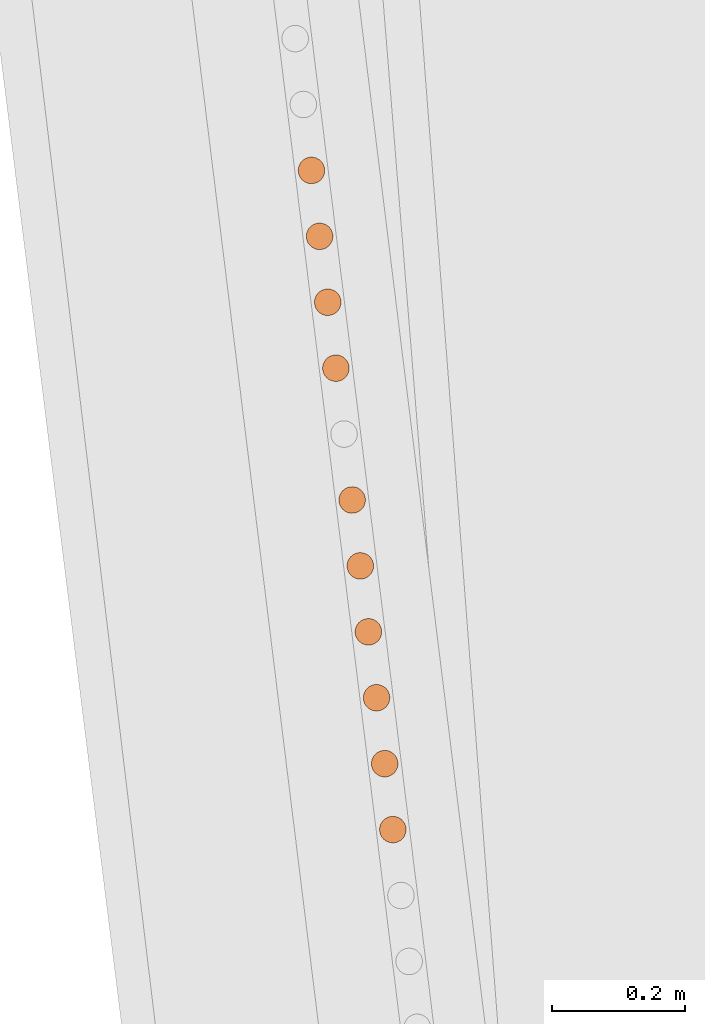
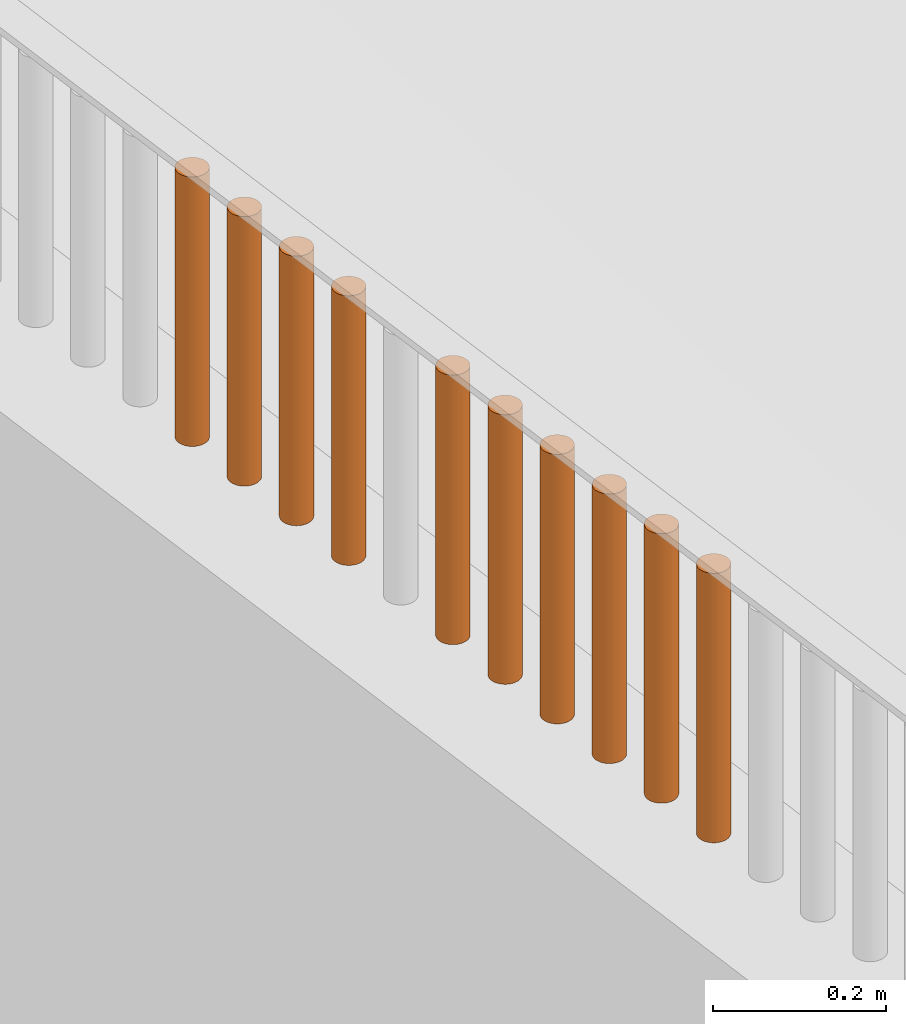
# One storey, part 65 of 1809: 10 proxies, 1 element without a shape of its own.
"""IFC2X3 building model written with IfcOpenShell, lengths in millimetres."""

from ifc_helpers import new_model, entity, si_unit, converted_unit, derived_unit, money_unit, direction, frame, origin_with_axes, place, context, subcontext, project, spatial, faceted_brep, source, transform, mapped, material, type_object, element, aggregate, save


model = new_model("IFC2X3")

# Units and contexts
model_context = context("Model", 3, precision=0.01, world=origin_with_axes(), true_north=direction((0.0, 1.0)))
body_context = subcontext(model_context, "Body", "Model", "MODEL_VIEW")
ifc_project = project(units=[si_unit("LENGTHUNIT", "METRE", prefix="MILLI"), si_unit("AREAUNIT", "SQUARE_METRE"), si_unit("VOLUMEUNIT", "CUBIC_METRE"), converted_unit("PLANEANGLEUNIT", "DEGREE", entity("IfcPlaneAngleMeasure", 0.0174532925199), si_unit("PLANEANGLEUNIT", "RADIAN"), dimensions=[0, 0, 0, 0, 0, 0, 0]), si_unit("SOLIDANGLEUNIT", "STERADIAN"), money_unit("EUR"), converted_unit("TIMEUNIT", "Year", entity("IfcTimeMeasure", 31556926.0), si_unit("TIMEUNIT", "SECOND"), dimensions=[0, 0, 1, 0, 0, 0, 0]), si_unit("MASSUNIT", "GRAM", prefix="KILO"), si_unit("THERMODYNAMICTEMPERATUREUNIT", "DEGREE_CELSIUS"), si_unit("LUMINOUSINTENSITYUNIT", "LUMEN"), si_unit("ENERGYUNIT", "JOULE", prefix="MEGA"), derived_unit("THERMALCONDUCTANCEUNIT", [(si_unit("POWERUNIT", "WATT"), 1), (si_unit("LENGTHUNIT", "METRE"), -1), (si_unit("THERMODYNAMICTEMPERATUREUNIT", "KELVIN"), -1)]), derived_unit("SPECIFICHEATCAPACITYUNIT", [(si_unit("ENERGYUNIT", "JOULE"), 1), (si_unit("MASSUNIT", "GRAM", prefix="KILO"), -1), (si_unit("THERMODYNAMICTEMPERATUREUNIT", "KELVIN"), -1)]), derived_unit("MASSDENSITYUNIT", [(si_unit("MASSUNIT", "GRAM", prefix="KILO"), 1), (si_unit("VOLUMEUNIT", "CUBIC_METRE"), -1)])], contexts=[model_context])

# Site, building, storey
site_placement = place(None, origin_with_axes())
site = spatial("IfcSite", under=ifc_project, at=site_placement, Name="Politse- ja Piirivalveameti ning Päästeameti ühishoone", CompositionType="ELEMENT")
building_placement = place(site_placement, origin_with_axes())
building = spatial("IfcBuilding", under=site, at=building_placement, Name="Politse- ja Piirivalveameti ning Päästeameti ühishoone", CompositionType="ELEMENT")
storey_placement = place(building_placement, origin_with_axes())
storey = spatial("IfcBuildingStorey", under=building, at=storey_placement, Name="Esimene korrus", CompositionType="ELEMENT", Elevation=0.0)

# Proxies
building_element_proxy_type_1 = type_object("IfcBuildingElementProxyType", Name="Railing Type", PredefinedType="NOTDEFINED")
proxy_1_placement = place(storey_placement, frame((-18956.5522504, -53688.4757966, 2100.0), z_axis=(0.0, 0.0, 1.0), x_axis=(1.0, 0.0, 0.0)))
proxy_1 = element("IfcBuildingElementProxy", 1, at=proxy_1_placement, inside=storey, type_object=building_element_proxy_type_1, Name="PIIRDEAED")
ifc_material = material(Name="ET-06_Teras - Konstruktsioon")
building_element_proxy_type_2 = type_object("IfcBuildingElementProxyType", Name="IfcBuildingElementProxy", PredefinedType="NOTDEFINED")
shared_shape_1 = source(origin_with_axes(), body_context, "Body", "Brep", [
    faceted_brep([(0.0, -20.0, 0.0), (3.47296355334, -19.6961550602, 0.0), (3.47296355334, -19.6961550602, 380.000012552), (0.0, -20.0, 380.000012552), (-3.47296355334, -19.6961550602, 0.0), (-6.84040286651, -18.7938524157, 0.0), (-10.0, -17.3205080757, 0.0), (-12.8557521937, -15.3208888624, 0.0), (-15.3208888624, -12.8557521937, 0.0), (-17.3205080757, -10.0, 0.0), (-18.7938524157, -6.84040286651, 0.0), (-19.6961550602, -3.47296355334, 0.0), (-20.0, 0.0, 0.0), (-19.6961550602, 3.47296355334, 0.0), (-18.7938524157, 6.84040286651, 0.0), (-17.3205080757, 10.0, 0.0), (-15.3208888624, 12.8557521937, 0.0), (-12.8557521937, 15.3208888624, 0.0), (-10.0, 17.3205080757, 0.0), (-6.84040286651, 18.7938524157, 0.0), (-3.47296355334, 19.6961550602, 0.0), (0.0, 20.0, 0.0), (3.47296355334, 19.6961550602, 0.0), (6.84040286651, 18.7938524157, 0.0), (10.0, 17.3205080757, 0.0), (12.8557521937, 15.3208888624, 0.0), (15.3208888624, 12.8557521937, 0.0), (17.3205080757, 10.0, 0.0), (18.7938524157, 6.84040286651, 0.0), (19.6961550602, 3.47296355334, 0.0), (20.0, 0.0, 0.0), (19.6961550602, -3.47296355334, 0.0), (18.7938524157, -6.84040286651, 0.0), (17.3205080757, -10.0, 0.0), (15.3208888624, -12.8557521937, 0.0), (12.8557521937, -15.3208888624, 0.0), (10.0, -17.3205080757, 0.0), (6.84040286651, -18.7938524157, 0.0), (6.84040286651, -18.7938524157, 380.000012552), (10.0, -17.3205080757, 380.000012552), (12.8557521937, -15.3208888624, 380.000012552), (15.3208888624, -12.8557521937, 380.000012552), (17.3205080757, -10.0, 380.000012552), (18.7938524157, -6.84040286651, 380.000012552), (19.6961550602, -3.47296355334, 380.000012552), (20.0, 0.0, 380.000012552), (19.6961550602, 3.47296355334, 380.000012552), (18.7938524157, 6.84040286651, 380.000012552), (17.3205080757, 10.0, 380.000012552), (15.3208888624, 12.8557521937, 380.000012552), (12.8557521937, 15.3208888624, 380.000012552), (10.0, 17.3205080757, 380.000012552), (6.84040286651, 18.7938524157, 380.000012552), (3.47296355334, 19.6961550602, 380.000012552), (0.0, 20.0, 380.000012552), (-3.47296355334, 19.6961550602, 380.000012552), (-6.84040286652, 18.7938524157, 380.000012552), (-10.0, 17.3205080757, 380.000012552), (-12.8557521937, 15.3208888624, 380.000012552), (-15.3208888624, 12.8557521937, 380.000012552), (-17.3205080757, 10.0, 380.000012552), (-18.7938524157, 6.84040286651, 380.000012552), (-19.6961550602, 3.47296355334, 380.000012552), (-20.0, 0.0, 380.000012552), (-19.6961550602, -3.47296355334, 380.000012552), (-18.7938524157, -6.84040286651, 380.000012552), (-17.3205080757, -10.0, 380.000012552), (-15.3208888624, -12.8557521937, 380.000012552), (-12.8557521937, -15.3208888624, 380.000012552), (-10.0, -17.3205080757, 380.000012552), (-6.84040286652, -18.7938524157, 380.000012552), (-3.47296355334, -19.6961550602, 380.000012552)], [[[0, 1, 2, 3]], [[0, 4, 5, 6, 7, 8, 9, 10, 11, 12, 13, 14, 15, 16, 17, 18, 19, 20, 21, 22, 23, 24, 25, 26, 27, 28, 29, 30, 31, 32, 33, 34, 35, 36, 37, 1]], [[1, 37, 38, 2]], [[3, 2, 38, 39, 40, 41, 42, 43, 44, 45, 46, 47, 48, 49, 50, 51, 52, 53, 54, 55, 56, 57, 58, 59, 60, 61, 62, 63, 64, 65, 66, 67, 68, 69, 70, 71]], [[4, 0, 3, 71]], [[5, 4, 71, 70]], [[6, 5, 70, 69]], [[7, 6, 69, 68]], [[8, 7, 68, 67]], [[9, 8, 67, 66]], [[10, 9, 66, 65]], [[11, 10, 65, 64]], [[12, 11, 64, 63]], [[13, 12, 63, 62]], [[14, 13, 62, 61]], [[15, 14, 61, 60]], [[16, 15, 60, 59]], [[17, 16, 59, 58]], [[18, 17, 58, 57]], [[19, 18, 57, 56]], [[20, 19, 56, 55]], [[21, 20, 55, 54]], [[22, 21, 54, 53]], [[23, 22, 53, 52]], [[24, 23, 52, 51]], [[25, 24, 51, 50]], [[26, 25, 50, 49]], [[27, 26, 49, 48]], [[28, 27, 48, 47]], [[29, 28, 47, 46]], [[30, 29, 46, 45]], [[31, 30, 45, 44]], [[32, 31, 44, 43]], [[33, 32, 43, 42]], [[34, 33, 42, 41]], [[35, 34, 41, 40]], [[36, 35, 40, 39]], [[37, 36, 39, 38]]]),
])
proxy_2_placement = place(proxy_1_placement, frame((-1550.49972739, 11727.3812848, -1.25517001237e-05), z_axis=(0.0, 0.0, 1.0), x_axis=(1.0, 0.0, 0.0)))
proxy_2 = element("IfcBuildingElementProxy", 2, at=proxy_2_placement, type_object=building_element_proxy_type_2, material=ifc_material, Name="BALUSTER - 001", context=body_context, shape_type="MappedRepresentation", body=[
    mapped(shared_shape_1, transform((0.0, 0.0, 0.0), x_axis=(0.992468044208, 0.122503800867, 0.0), y_axis=(-0.122503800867, 0.992468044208, 0.0), z_axis=(0.0, 0.0, 1.0))),
])
proxy_3_placement = place(proxy_1_placement, frame((-1648.4813667, 12521.1823362, -1.25517001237e-05), z_axis=(0.0, 0.0, 1.0), x_axis=(1.0, 0.0, 0.0)))
proxy_3 = element("IfcBuildingElementProxy", 3, at=proxy_3_placement, type_object=building_element_proxy_type_2, material=ifc_material, Name="BALUSTER - 001", context=body_context, shape_type="MappedRepresentation", body=[
    mapped(shared_shape_1, transform((0.0, 0.0, 0.0), x_axis=(0.992468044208, 0.122503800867, 0.0), y_axis=(-0.122503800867, 0.992468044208, 0.0), z_axis=(0.0, 0.0, 1.0))),
])
shared_shape_2 = source(origin_with_axes(), body_context, "Body", "Brep", [
    faceted_brep([(0.0, -20.0, 0.0), (3.47296355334, -19.6961550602, 0.0), (3.47296355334, -19.6961550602, 380.000012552), (0.0, -20.0, 380.000012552), (-3.47296355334, -19.6961550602, 0.0), (-6.84040286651, -18.7938524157, 0.0), (-10.0, -17.3205080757, 0.0), (-12.8557521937, -15.3208888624, 0.0), (-15.3208888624, -12.8557521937, 0.0), (-17.3205080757, -10.0, 0.0), (-18.7938524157, -6.84040286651, 0.0), (-19.6961550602, -3.47296355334, 0.0), (-20.0, 0.0, 0.0), (-19.6961550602, 3.47296355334, 0.0), (-18.7938524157, 6.84040286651, 0.0), (-17.3205080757, 10.0, 0.0), (-15.3208888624, 12.8557521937, 0.0), (-12.8557521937, 15.3208888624, 0.0), (-10.0, 17.3205080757, 0.0), (-6.84040286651, 18.7938524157, 0.0), (-3.47296355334, 19.6961550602, 0.0), (0.0, 20.0, 0.0), (3.47296355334, 19.6961550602, 0.0), (6.84040286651, 18.7938524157, 0.0), (10.0, 17.3205080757, 0.0), (12.8557521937, 15.3208888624, 0.0), (15.3208888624, 12.8557521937, 0.0), (17.3205080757, 10.0, 0.0), (18.7938524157, 6.84040286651, 0.0), (19.6961550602, 3.47296355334, 0.0), (20.0, 0.0, 0.0), (19.6961550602, -3.47296355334, 0.0), (18.7938524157, -6.84040286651, 0.0), (17.3205080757, -10.0, 0.0), (15.3208888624, -12.8557521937, 0.0), (12.8557521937, -15.3208888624, 0.0), (10.0, -17.3205080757, 0.0), (6.84040286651, -18.7938524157, 0.0), (6.84040286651, -18.7938524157, 380.000012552), (10.0, -17.3205080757, 380.000012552), (12.8557521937, -15.3208888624, 380.000012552), (15.3208888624, -12.8557521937, 380.000012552), (17.3205080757, -9.99999999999, 380.000012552), (18.7938524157, -6.84040286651, 380.000012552), (19.6961550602, -3.47296355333, 380.000012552), (20.0, 0.0, 380.000012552), (19.6961550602, 3.47296355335, 380.000012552), (18.7938524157, 6.84040286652, 380.000012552), (17.3205080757, 10.0, 380.000012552), (15.3208888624, 12.8557521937, 380.000012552), (12.8557521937, 15.3208888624, 380.000012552), (10.0, 17.3205080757, 380.000012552), (6.84040286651, 18.7938524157, 380.000012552), (3.47296355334, 19.6961550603, 380.000012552), (0.0, 20.0, 380.000012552), (-3.47296355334, 19.6961550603, 380.000012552), (-6.84040286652, 18.7938524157, 380.000012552), (-10.0, 17.3205080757, 380.000012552), (-12.8557521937, 15.3208888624, 380.000012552), (-15.3208888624, 12.8557521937, 380.000012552), (-17.3205080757, 10.0, 380.000012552), (-18.7938524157, 6.84040286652, 380.000012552), (-19.6961550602, 3.47296355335, 380.000012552), (-20.0, 0.0, 380.000012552), (-19.6961550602, -3.47296355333, 380.000012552), (-18.7938524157, -6.84040286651, 380.000012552), (-17.3205080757, -9.99999999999, 380.000012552), (-15.3208888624, -12.8557521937, 380.000012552), (-12.8557521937, -15.3208888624, 380.000012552), (-10.0, -17.3205080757, 380.000012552), (-6.84040286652, -18.7938524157, 380.000012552), (-3.47296355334, -19.6961550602, 380.000012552)], [[[0, 1, 2, 3]], [[0, 4, 5, 6, 7, 8, 9, 10, 11, 12, 13, 14, 15, 16, 17, 18, 19, 20, 21, 22, 23, 24, 25, 26, 27, 28, 29, 30, 31, 32, 33, 34, 35, 36, 37, 1]], [[1, 37, 38, 2]], [[3, 2, 38, 39, 40, 41, 42, 43, 44, 45, 46, 47, 48, 49, 50, 51, 52, 53, 54, 55, 56, 57, 58, 59, 60, 61, 62, 63, 64, 65, 66, 67, 68, 69, 70, 71]], [[4, 0, 3, 71]], [[5, 4, 71, 70]], [[6, 5, 70, 69]], [[7, 6, 69, 68]], [[8, 7, 68, 67]], [[9, 8, 67, 66]], [[10, 9, 66, 65]], [[11, 10, 65, 64]], [[12, 11, 64, 63]], [[13, 12, 63, 62]], [[14, 13, 62, 61]], [[15, 14, 61, 60]], [[16, 15, 60, 59]], [[17, 16, 59, 58]], [[18, 17, 58, 57]], [[19, 18, 57, 56]], [[20, 19, 56, 55]], [[21, 20, 55, 54]], [[22, 21, 54, 53]], [[23, 22, 53, 52]], [[24, 23, 52, 51]], [[25, 24, 51, 50]], [[26, 25, 50, 49]], [[27, 26, 49, 48]], [[28, 27, 48, 47]], [[29, 28, 47, 46]], [[30, 29, 46, 45]], [[31, 30, 45, 44]], [[32, 31, 44, 43]], [[33, 32, 43, 42]], [[34, 33, 42, 41]], [[35, 34, 41, 40]], [[36, 35, 40, 39]], [[37, 36, 39, 38]]]),
])
proxy_4_placement = place(proxy_1_placement, frame((-1574.99513722, 11925.8315476, -1.25517001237e-05), z_axis=(0.0, 0.0, 1.0), x_axis=(1.0, 0.0, 0.0)))
proxy_4 = element("IfcBuildingElementProxy", 4, at=proxy_4_placement, type_object=building_element_proxy_type_2, material=ifc_material, Name="BALUSTER - 001", context=body_context, shape_type="MappedRepresentation", body=[
    mapped(shared_shape_2, transform((0.0, 0.0, 0.0), x_axis=(0.992468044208, 0.122503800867, 0.0), y_axis=(-0.122503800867, 0.992468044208, 0.0), z_axis=(0.0, 0.0, 1.0))),
])
shared_shape_3 = source(origin_with_axes(), body_context, "Body", "Brep", [
    faceted_brep([(0.0, -20.0, 0.0), (3.47296355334, -19.6961550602, 0.0), (3.47296355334, -19.6961550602, 380.000012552), (0.0, -20.0, 380.000012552), (-3.47296355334, -19.6961550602, 0.0), (-6.84040286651, -18.7938524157, 0.0), (-10.0, -17.3205080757, 0.0), (-12.8557521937, -15.3208888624, 0.0), (-15.3208888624, -12.8557521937, 0.0), (-17.3205080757, -10.0, 0.0), (-18.7938524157, -6.84040286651, 0.0), (-19.6961550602, -3.47296355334, 0.0), (-20.0, 0.0, 0.0), (-19.6961550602, 3.47296355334, 0.0), (-18.7938524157, 6.84040286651, 0.0), (-17.3205080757, 10.0, 0.0), (-15.3208888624, 12.8557521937, 0.0), (-12.8557521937, 15.3208888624, 0.0), (-10.0, 17.3205080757, 0.0), (-6.84040286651, 18.7938524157, 0.0), (-3.47296355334, 19.6961550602, 0.0), (0.0, 20.0, 0.0), (3.47296355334, 19.6961550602, 0.0), (6.84040286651, 18.7938524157, 0.0), (10.0, 17.3205080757, 0.0), (12.8557521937, 15.3208888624, 0.0), (15.3208888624, 12.8557521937, 0.0), (17.3205080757, 10.0, 0.0), (18.7938524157, 6.84040286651, 0.0), (19.6961550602, 3.47296355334, 0.0), (20.0, 0.0, 0.0), (19.6961550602, -3.47296355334, 0.0), (18.7938524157, -6.84040286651, 0.0), (17.3205080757, -10.0, 0.0), (15.3208888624, -12.8557521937, 0.0), (12.8557521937, -15.3208888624, 0.0), (10.0, -17.3205080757, 0.0), (6.84040286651, -18.7938524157, 0.0), (6.84040286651, -18.7938524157, 380.000012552), (10.0, -17.3205080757, 380.000012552), (12.8557521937, -15.3208888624, 380.000012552), (15.3208888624, -12.8557521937, 380.000012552), (17.3205080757, -10.0, 380.000012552), (18.7938524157, -6.84040286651, 380.000012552), (19.6961550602, -3.47296355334, 380.000012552), (20.0, 0.0, 380.000012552), (19.6961550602, 3.47296355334, 380.000012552), (18.7938524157, 6.84040286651, 380.000012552), (17.3205080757, 10.0, 380.000012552), (15.3208888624, 12.8557521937, 380.000012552), (12.8557521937, 15.3208888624, 380.000012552), (10.0, 17.3205080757, 380.000012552), (6.84040286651, 18.7938524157, 380.000012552), (3.47296355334, 19.6961550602, 380.000012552), (0.0, 20.0, 380.000012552), (-3.47296355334, 19.6961550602, 380.000012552), (-6.84040286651, 18.7938524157, 380.000012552), (-10.0, 17.3205080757, 380.000012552), (-12.8557521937, 15.3208888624, 380.000012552), (-15.3208888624, 12.8557521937, 380.000012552), (-17.3205080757, 10.0, 380.000012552), (-18.7938524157, 6.84040286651, 380.000012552), (-19.6961550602, 3.47296355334, 380.000012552), (-20.0, 0.0, 380.000012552), (-19.6961550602, -3.47296355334, 380.000012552), (-18.7938524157, -6.84040286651, 380.000012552), (-17.3205080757, -10.0, 380.000012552), (-15.3208888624, -12.8557521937, 380.000012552), (-12.8557521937, -15.3208888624, 380.000012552), (-10.0, -17.3205080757, 380.000012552), (-6.84040286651, -18.7938524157, 380.000012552), (-3.47296355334, -19.6961550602, 380.000012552)], [[[0, 1, 2, 3]], [[0, 4, 5, 6, 7, 8, 9, 10, 11, 12, 13, 14, 15, 16, 17, 18, 19, 20, 21, 22, 23, 24, 25, 26, 27, 28, 29, 30, 31, 32, 33, 34, 35, 36, 37, 1]], [[1, 37, 38, 2]], [[3, 2, 38, 39, 40, 41, 42, 43, 44, 45, 46, 47, 48, 49, 50, 51, 52, 53, 54, 55, 56, 57, 58, 59, 60, 61, 62, 63, 64, 65, 66, 67, 68, 69, 70, 71]], [[4, 0, 3, 71]], [[5, 4, 71, 70]], [[6, 5, 70, 69]], [[7, 6, 69, 68]], [[8, 7, 68, 67]], [[9, 8, 67, 66]], [[10, 9, 66, 65]], [[11, 10, 65, 64]], [[12, 11, 64, 63]], [[13, 12, 63, 62]], [[14, 13, 62, 61]], [[15, 14, 61, 60]], [[16, 15, 60, 59]], [[17, 16, 59, 58]], [[18, 17, 58, 57]], [[19, 18, 57, 56]], [[20, 19, 56, 55]], [[21, 20, 55, 54]], [[22, 21, 54, 53]], [[23, 22, 53, 52]], [[24, 23, 52, 51]], [[25, 24, 51, 50]], [[26, 25, 50, 49]], [[27, 26, 49, 48]], [[28, 27, 48, 47]], [[29, 28, 47, 46]], [[30, 29, 46, 45]], [[31, 30, 45, 44]], [[32, 31, 44, 43]], [[33, 32, 43, 42]], [[34, 33, 42, 41]], [[35, 34, 41, 40]], [[36, 35, 40, 39]], [[37, 36, 39, 38]]]),
])
proxy_5_placement = place(proxy_1_placement, frame((-1587.24284213, 12025.056679, -1.25517001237e-05), z_axis=(0.0, 0.0, 1.0), x_axis=(1.0, 0.0, 0.0)))
proxy_5 = element("IfcBuildingElementProxy", 5, at=proxy_5_placement, type_object=building_element_proxy_type_2, material=ifc_material, Name="BALUSTER - 001", context=body_context, shape_type="MappedRepresentation", body=[
    mapped(shared_shape_3, transform((0.0, 0.0, 0.0), x_axis=(0.992468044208, 0.122503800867, 0.0), y_axis=(-0.122503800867, 0.992468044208, 0.0), z_axis=(0.0, 0.0, 1.0))),
])
shared_shape_4 = source(origin_with_axes(), body_context, "Body", "Brep", [
    faceted_brep([(0.0, -20.0, 0.0), (3.47296355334, -19.6961550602, 0.0), (3.47296355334, -19.6961550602, 380.000012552), (0.0, -20.0, 380.000012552), (-3.47296355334, -19.6961550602, 0.0), (-6.84040286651, -18.7938524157, 0.0), (-10.0, -17.3205080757, 0.0), (-12.8557521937, -15.3208888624, 0.0), (-15.3208888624, -12.8557521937, 0.0), (-17.3205080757, -10.0, 0.0), (-18.7938524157, -6.84040286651, 0.0), (-19.6961550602, -3.47296355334, 0.0), (-20.0, 0.0, 0.0), (-19.6961550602, 3.47296355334, 0.0), (-18.7938524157, 6.84040286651, 0.0), (-17.3205080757, 10.0, 0.0), (-15.3208888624, 12.8557521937, 0.0), (-12.8557521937, 15.3208888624, 0.0), (-10.0, 17.3205080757, 0.0), (-6.84040286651, 18.7938524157, 0.0), (-3.47296355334, 19.6961550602, 0.0), (0.0, 20.0, 0.0), (3.47296355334, 19.6961550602, 0.0), (6.84040286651, 18.7938524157, 0.0), (10.0, 17.3205080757, 0.0), (12.8557521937, 15.3208888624, 0.0), (15.3208888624, 12.8557521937, 0.0), (17.3205080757, 10.0, 0.0), (18.7938524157, 6.84040286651, 0.0), (19.6961550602, 3.47296355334, 0.0), (20.0, 0.0, 0.0), (19.6961550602, -3.47296355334, 0.0), (18.7938524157, -6.84040286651, 0.0), (17.3205080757, -10.0, 0.0), (15.3208888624, -12.8557521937, 0.0), (12.8557521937, -15.3208888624, 0.0), (10.0, -17.3205080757, 0.0), (6.84040286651, -18.7938524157, 0.0), (6.84040286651, -18.7938524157, 380.000012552), (10.0, -17.3205080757, 380.000012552), (12.8557521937, -15.3208888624, 380.000012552), (15.3208888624, -12.8557521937, 380.000012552), (17.3205080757, -10.0, 380.000012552), (18.7938524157, -6.84040286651, 380.000012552), (19.6961550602, -3.47296355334, 380.000012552), (20.0, 0.0, 380.000012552), (19.6961550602, 3.47296355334, 380.000012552), (18.7938524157, 6.84040286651, 380.000012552), (17.3205080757, 10.0, 380.000012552), (15.3208888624, 12.8557521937, 380.000012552), (12.8557521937, 15.3208888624, 380.000012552), (10.0, 17.3205080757, 380.000012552), (6.84040286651, 18.7938524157, 380.000012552), (3.47296355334, 19.6961550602, 380.000012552), (0.0, 20.0, 380.000012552), (-3.47296355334, 19.6961550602, 380.000012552), (-6.84040286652, 18.7938524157, 380.000012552), (-10.0, 17.3205080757, 380.000012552), (-12.8557521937, 15.3208888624, 380.000012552), (-15.3208888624, 12.8557521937, 380.000012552), (-17.3205080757, 10.0, 380.000012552), (-18.7938524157, 6.84040286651, 380.000012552), (-19.6961550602, 3.47296355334, 380.000012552), (-20.0, 0.0, 380.000012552), (-19.6961550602, -3.47296355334, 380.000012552), (-18.7938524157, -6.84040286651, 380.000012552), (-17.3205080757, -10.0, 380.000012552), (-15.3208888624, -12.8557521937, 380.000012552), (-12.8557521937, -15.3208888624, 380.000012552), (-10.0, -17.3205080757, 380.000012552), (-6.84040286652, -18.7938524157, 380.000012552), (-3.47296355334, -19.6961550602, 380.000012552)], [[[0, 1, 2, 3]], [[0, 4, 5, 6, 7, 8, 9, 10, 11, 12, 13, 14, 15, 16, 17, 18, 19, 20, 21, 22, 23, 24, 25, 26, 27, 28, 29, 30, 31, 32, 33, 34, 35, 36, 37, 1]], [[1, 37, 38, 2]], [[3, 2, 38, 39, 40, 41, 42, 43, 44, 45, 46, 47, 48, 49, 50, 51, 52, 53, 54, 55, 56, 57, 58, 59, 60, 61, 62, 63, 64, 65, 66, 67, 68, 69, 70, 71]], [[4, 0, 3, 71]], [[5, 4, 71, 70]], [[6, 5, 70, 69]], [[7, 6, 69, 68]], [[8, 7, 68, 67]], [[9, 8, 67, 66]], [[10, 9, 66, 65]], [[11, 10, 65, 64]], [[12, 11, 64, 63]], [[13, 12, 63, 62]], [[14, 13, 62, 61]], [[15, 14, 61, 60]], [[16, 15, 60, 59]], [[17, 16, 59, 58]], [[18, 17, 58, 57]], [[19, 18, 57, 56]], [[20, 19, 56, 55]], [[21, 20, 55, 54]], [[22, 21, 54, 53]], [[23, 22, 53, 52]], [[24, 23, 52, 51]], [[25, 24, 51, 50]], [[26, 25, 50, 49]], [[27, 26, 49, 48]], [[28, 27, 48, 47]], [[29, 28, 47, 46]], [[30, 29, 46, 45]], [[31, 30, 45, 44]], [[32, 31, 44, 43]], [[33, 32, 43, 42]], [[34, 33, 42, 41]], [[35, 34, 41, 40]], [[36, 35, 40, 39]], [[37, 36, 39, 38]]]),
])
proxy_6_placement = place(proxy_1_placement, frame((-1562.74743231, 11826.6064162, -1.25517001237e-05), z_axis=(0.0, 0.0, 1.0), x_axis=(1.0, 0.0, 0.0)))
proxy_6 = element("IfcBuildingElementProxy", 6, at=proxy_6_placement, type_object=building_element_proxy_type_2, material=ifc_material, Name="BALUSTER - 001", context=body_context, shape_type="MappedRepresentation", body=[
    mapped(shared_shape_4, transform((0.0, 0.0, 0.0), x_axis=(0.992468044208, 0.122503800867, 0.0), y_axis=(-0.122503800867, 0.992468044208, 0.0), z_axis=(0.0, 0.0, 1.0))),
])
proxy_7_placement = place(proxy_1_placement, frame((-1599.49054705, 12124.2818105, -1.25517001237e-05), z_axis=(0.0, 0.0, 1.0), x_axis=(1.0, 0.0, 0.0)))
proxy_7 = element("IfcBuildingElementProxy", 7, at=proxy_7_placement, type_object=building_element_proxy_type_2, material=ifc_material, Name="BALUSTER - 001", context=body_context, shape_type="MappedRepresentation", body=[
    mapped(shared_shape_4, transform((0.0, 0.0, 0.0), x_axis=(0.992468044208, 0.122503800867, 0.0), y_axis=(-0.122503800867, 0.992468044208, 0.0), z_axis=(0.0, 0.0, 1.0))),
])
proxy_8_placement = place(proxy_1_placement, frame((-1623.98595687, 12322.7320733, -1.25517001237e-05), z_axis=(0.0, 0.0, 1.0), x_axis=(1.0, 0.0, 0.0)))
proxy_8 = element("IfcBuildingElementProxy", 8, at=proxy_8_placement, type_object=building_element_proxy_type_2, material=ifc_material, Name="BALUSTER - 001", context=body_context, shape_type="MappedRepresentation", body=[
    mapped(shared_shape_4, transform((0.0, 0.0, 0.0), x_axis=(0.992468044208, 0.122503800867, 0.0), y_axis=(-0.122503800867, 0.992468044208, 0.0), z_axis=(0.0, 0.0, 1.0))),
])
proxy_9_placement = place(proxy_1_placement, frame((-1660.72907161, 12620.4074676, -1.25517001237e-05), z_axis=(0.0, 0.0, 1.0), x_axis=(1.0, 0.0, 0.0)))
proxy_9 = element("IfcBuildingElementProxy", 9, at=proxy_9_placement, type_object=building_element_proxy_type_2, material=ifc_material, Name="BALUSTER - 001", context=body_context, shape_type="MappedRepresentation", body=[
    mapped(shared_shape_4, transform((0.0, 0.0, 0.0), x_axis=(0.992468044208, 0.122503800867, 0.0), y_axis=(-0.122503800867, 0.992468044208, 0.0), z_axis=(0.0, 0.0, 1.0))),
])
shared_shape_5 = source(origin_with_axes(), body_context, "Body", "Brep", [
    faceted_brep([(0.0, -20.0, 0.0), (3.47296355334, -19.6961550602, 0.0), (3.47296355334, -19.6961550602, 380.000012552), (0.0, -20.0, 380.000012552), (-3.47296355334, -19.6961550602, 0.0), (-6.84040286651, -18.7938524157, 0.0), (-10.0, -17.3205080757, 0.0), (-12.8557521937, -15.3208888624, 0.0), (-15.3208888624, -12.8557521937, 0.0), (-17.3205080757, -10.0, 0.0), (-18.7938524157, -6.84040286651, 0.0), (-19.6961550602, -3.47296355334, 0.0), (-20.0, 0.0, 0.0), (-19.6961550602, 3.47296355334, 0.0), (-18.7938524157, 6.84040286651, 0.0), (-17.3205080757, 10.0, 0.0), (-15.3208888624, 12.8557521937, 0.0), (-12.8557521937, 15.3208888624, 0.0), (-10.0, 17.3205080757, 0.0), (-6.84040286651, 18.7938524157, 0.0), (-3.47296355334, 19.6961550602, 0.0), (0.0, 20.0, 0.0), (3.47296355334, 19.6961550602, 0.0), (6.84040286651, 18.7938524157, 0.0), (10.0, 17.3205080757, 0.0), (12.8557521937, 15.3208888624, 0.0), (15.3208888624, 12.8557521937, 0.0), (17.3205080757, 10.0, 0.0), (18.7938524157, 6.84040286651, 0.0), (19.6961550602, 3.47296355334, 0.0), (20.0, 0.0, 0.0), (19.6961550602, -3.47296355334, 0.0), (18.7938524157, -6.84040286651, 0.0), (17.3205080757, -10.0, 0.0), (15.3208888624, -12.8557521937, 0.0), (12.8557521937, -15.3208888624, 0.0), (10.0, -17.3205080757, 0.0), (6.84040286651, -18.7938524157, 0.0), (6.84040286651, -18.7938524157, 380.000012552), (10.0, -17.3205080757, 380.000012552), (12.8557521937, -15.3208888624, 380.000012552), (15.3208888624, -12.8557521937, 380.000012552), (17.3205080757, -10.0, 380.000012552), (18.7938524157, -6.84040286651, 380.000012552), (19.6961550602, -3.47296355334, 380.000012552), (20.0, 0.0, 380.000012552), (19.6961550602, 3.47296355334, 380.000012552), (18.7938524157, 6.84040286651, 380.000012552), (17.3205080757, 10.0, 380.000012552), (15.3208888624, 12.8557521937, 380.000012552), (12.8557521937, 15.3208888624, 380.000012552), (10.0, 17.3205080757, 380.000012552), (6.84040286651, 18.7938524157, 380.000012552), (3.47296355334, 19.6961550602, 380.000012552), (0.0, 20.0, 380.000012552), (-3.47296355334, 19.6961550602, 380.000012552), (-6.84040286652, 18.7938524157, 380.000012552), (-10.0, 17.3205080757, 380.000012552), (-12.8557521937, 15.3208888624, 380.000012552), (-15.3208888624, 12.8557521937, 380.000012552), (-17.3205080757, 10.0, 380.000012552), (-18.7938524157, 6.84040286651, 380.000012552), (-19.6961550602, 3.47296355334, 380.000012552), (-20.0, 0.0, 380.000012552), (-19.6961550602, -3.47296355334, 380.000012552), (-18.7938524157, -6.84040286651, 380.000012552), (-17.3205080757, -10.0, 380.000012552), (-15.3208888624, -12.8557521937, 380.000012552), (-12.8557521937, -15.3208888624, 380.000012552), (-10.0, -17.3205080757, 380.000012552), (-6.84040286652, -18.7938524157, 380.000012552), (-3.47296355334, -19.6961550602, 380.000012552)], [[[0, 1, 2, 3]], [[0, 4, 5, 6, 7, 8, 9, 10, 11, 12, 13, 14, 15, 16, 17, 18, 19, 20, 21, 22, 23, 24, 25, 26, 27, 28, 29, 30, 31, 32, 33, 34, 35, 36, 37, 1]], [[1, 37, 38, 2]], [[3, 2, 38, 39, 40, 41, 42, 43, 44, 45, 46, 47, 48, 49, 50, 51, 52, 53, 54, 55, 56, 57, 58, 59, 60, 61, 62, 63, 64, 65, 66, 67, 68, 69, 70, 71]], [[4, 0, 3, 71]], [[5, 4, 71, 70]], [[6, 5, 70, 69]], [[7, 6, 69, 68]], [[8, 7, 68, 67]], [[9, 8, 67, 66]], [[10, 9, 66, 65]], [[11, 10, 65, 64]], [[12, 11, 64, 63]], [[13, 12, 63, 62]], [[14, 13, 62, 61]], [[15, 14, 61, 60]], [[16, 15, 60, 59]], [[17, 16, 59, 58]], [[18, 17, 58, 57]], [[19, 18, 57, 56]], [[20, 19, 56, 55]], [[21, 20, 55, 54]], [[22, 21, 54, 53]], [[23, 22, 53, 52]], [[24, 23, 52, 51]], [[25, 24, 51, 50]], [[26, 25, 50, 49]], [[27, 26, 49, 48]], [[28, 27, 48, 47]], [[29, 28, 47, 46]], [[30, 29, 46, 45]], [[31, 30, 45, 44]], [[32, 31, 44, 43]], [[33, 32, 43, 42]], [[34, 33, 42, 41]], [[35, 34, 41, 40]], [[36, 35, 40, 39]], [[37, 36, 39, 38]]]),
])
proxy_10_placement = place(proxy_1_placement, frame((-1636.23366179, 12421.9572047, -1.25517001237e-05), z_axis=(0.0, 0.0, 1.0), x_axis=(1.0, 0.0, 0.0)))
proxy_10 = element("IfcBuildingElementProxy", 10, at=proxy_10_placement, type_object=building_element_proxy_type_2, material=ifc_material, Name="BALUSTER - 001", context=body_context, shape_type="MappedRepresentation", body=[
    mapped(shared_shape_5, transform((0.0, 0.0, 0.0), x_axis=(0.992468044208, 0.122503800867, 0.0), y_axis=(-0.122503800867, 0.992468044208, 0.0), z_axis=(0.0, 0.0, 1.0))),
])
shared_shape_6 = source(origin_with_axes(), body_context, "Body", "Brep", [
    faceted_brep([(0.0, -20.0, 0.0), (3.47296355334, -19.6961550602, 0.0), (3.47296355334, -19.6961550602, 380.000012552), (0.0, -20.0, 380.000012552), (-3.47296355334, -19.6961550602, 0.0), (-6.84040286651, -18.7938524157, 0.0), (-10.0, -17.3205080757, 0.0), (-12.8557521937, -15.3208888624, 0.0), (-15.3208888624, -12.8557521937, 0.0), (-17.3205080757, -10.0, 0.0), (-18.7938524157, -6.84040286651, 0.0), (-19.6961550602, -3.47296355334, 0.0), (-20.0, 0.0, 0.0), (-19.6961550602, 3.47296355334, 0.0), (-18.7938524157, 6.84040286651, 0.0), (-17.3205080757, 10.0, 0.0), (-15.3208888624, 12.8557521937, 0.0), (-12.8557521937, 15.3208888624, 0.0), (-10.0, 17.3205080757, 0.0), (-6.84040286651, 18.7938524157, 0.0), (-3.47296355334, 19.6961550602, 0.0), (0.0, 20.0, 0.0), (3.47296355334, 19.6961550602, 0.0), (6.84040286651, 18.7938524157, 0.0), (10.0, 17.3205080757, 0.0), (12.8557521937, 15.3208888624, 0.0), (15.3208888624, 12.8557521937, 0.0), (17.3205080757, 10.0, 0.0), (18.7938524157, 6.84040286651, 0.0), (19.6961550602, 3.47296355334, 0.0), (20.0, 0.0, 0.0), (19.6961550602, -3.47296355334, 0.0), (18.7938524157, -6.84040286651, 0.0), (17.3205080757, -10.0, 0.0), (15.3208888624, -12.8557521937, 0.0), (12.8557521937, -15.3208888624, 0.0), (10.0, -17.3205080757, 0.0), (6.84040286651, -18.7938524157, 0.0), (6.84040286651, -18.7938524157, 380.000012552), (10.0, -17.3205080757, 380.000012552), (12.8557521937, -15.3208888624, 380.000012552), (15.3208888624, -12.8557521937, 380.000012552), (17.3205080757, -9.99999999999, 380.000012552), (18.7938524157, -6.84040286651, 380.000012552), (19.6961550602, -3.47296355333, 380.000012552), (20.0, 0.0, 380.000012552), (19.6961550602, 3.47296355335, 380.000012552), (18.7938524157, 6.84040286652, 380.000012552), (17.3205080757, 10.0, 380.000012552), (15.3208888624, 12.8557521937, 380.000012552), (12.8557521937, 15.3208888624, 380.000012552), (10.0, 17.3205080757, 380.000012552), (6.84040286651, 18.7938524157, 380.000012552), (3.47296355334, 19.6961550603, 380.000012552), (0.0, 20.0, 380.000012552), (-3.47296355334, 19.6961550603, 380.000012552), (-6.84040286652, 18.7938524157, 380.000012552), (-10.0, 17.3205080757, 380.000012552), (-12.8557521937, 15.3208888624, 380.000012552), (-15.3208888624, 12.8557521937, 380.000012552), (-17.3205080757, 10.0, 380.000012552), (-18.7938524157, 6.84040286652, 380.000012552), (-19.6961550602, 3.47296355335, 380.000012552), (-20.0, 0.0, 380.000012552), (-19.6961550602, -3.47296355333, 380.000012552), (-18.7938524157, -6.84040286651, 380.000012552), (-17.3205080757, -9.99999999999, 380.000012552), (-15.3208888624, -12.8557521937, 380.000012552), (-12.8557521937, -15.3208888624, 380.000012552), (-10.0, -17.3205080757, 380.000012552), (-6.84040286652, -18.7938524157, 380.000012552), (-3.47296355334, -19.6961550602, 380.000012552)], [[[0, 1, 2, 3]], [[0, 4, 5, 6, 7, 8, 9, 10, 11, 12, 13, 14, 15, 16, 17, 18, 19, 20, 21, 22, 23, 24, 25, 26, 27, 28, 29, 30, 31, 32, 33, 34, 35, 36, 37, 1]], [[1, 37, 38, 2]], [[3, 2, 38, 39, 40, 41, 42, 43, 44, 45, 46, 47, 48, 49, 50, 51, 52, 53, 54, 55, 56, 57, 58, 59, 60, 61, 62, 63, 64, 65, 66, 67, 68, 69, 70, 71]], [[4, 0, 3, 71]], [[5, 4, 71, 70]], [[6, 5, 70, 69]], [[7, 6, 69, 68]], [[8, 7, 68, 67]], [[9, 8, 67, 66]], [[10, 9, 66, 65]], [[11, 10, 65, 64]], [[12, 11, 64, 63]], [[13, 12, 63, 62]], [[14, 13, 62, 61]], [[15, 14, 61, 60]], [[16, 15, 60, 59]], [[17, 16, 59, 58]], [[18, 17, 58, 57]], [[19, 18, 57, 56]], [[20, 19, 56, 55]], [[21, 20, 55, 54]], [[22, 21, 54, 53]], [[23, 22, 53, 52]], [[24, 23, 52, 51]], [[25, 24, 51, 50]], [[26, 25, 50, 49]], [[27, 26, 49, 48]], [[28, 27, 48, 47]], [[29, 28, 47, 46]], [[30, 29, 46, 45]], [[31, 30, 45, 44]], [[32, 31, 44, 43]], [[33, 32, 43, 42]], [[34, 33, 42, 41]], [[35, 34, 41, 40]], [[36, 35, 40, 39]], [[37, 36, 39, 38]]]),
])
proxy_11_placement = place(proxy_1_placement, frame((-1538.25202248, 11628.1561533, -1.25517001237e-05), z_axis=(0.0, 0.0, 1.0), x_axis=(1.0, 0.0, 0.0)))
proxy_11 = element("IfcBuildingElementProxy", 11, at=proxy_11_placement, type_object=building_element_proxy_type_2, material=ifc_material, Name="BALUSTER - 001", context=body_context, shape_type="MappedRepresentation", body=[
    mapped(shared_shape_6, transform((0.0, 0.0, 0.0), x_axis=(0.992468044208, 0.122503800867, 0.0), y_axis=(-0.122503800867, 0.992468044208, 0.0), z_axis=(0.0, 0.0, 1.0))),
])
aggregate(proxy_1, [proxy_11, proxy_2, proxy_6, proxy_4, proxy_5, proxy_7, proxy_8, proxy_10, proxy_3, proxy_9])

save(model, "model.ifc")
